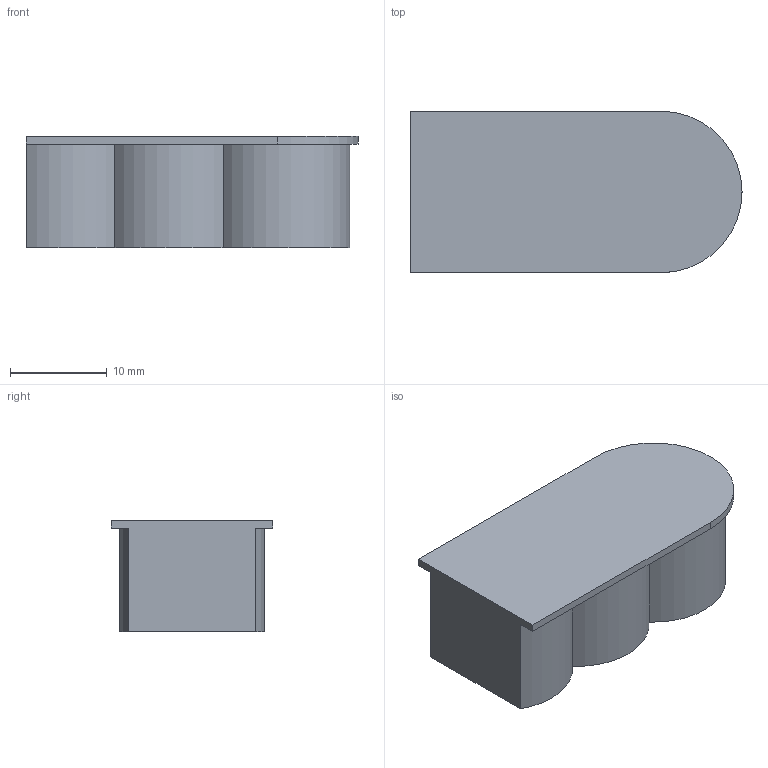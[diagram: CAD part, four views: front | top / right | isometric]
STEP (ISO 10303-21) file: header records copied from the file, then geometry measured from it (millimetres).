
FILE_DESCRIPTION(/* description */ (''),/* implementation_level */ '2;1');
FILE_NAME(/* name */ 'C:\Users\matthiask.LAMELLONET\Desktop\Cabineo_Bund_flaechenbuendig_Variante_1-2.stp',/* time_stamp */ '2021-07-09T11:45:34+02:00',/* author */ ('matthiask'),/* organization */ (''),/* preprocessor_version */ 'ST-DEVELOPER v18',/* originating_system */ 'Autodesk Inventor 2020',/* authorisation */ '');
FILE_SCHEMA (('AUTOMOTIVE_DESIGN { 1 0 10303 214 3 1 1 }'));
Length unit declared in the file: millimetre
Products named in the file (1): Cabineo Bund flächenbündig Variante 1-2
Bounding box: 34.35 x 16.7 x 11.5 mm (x, y, z)
Volume: 5160.5 mm3; surface area: 2177.9 mm2
Topology: 1 solids, 1 shells, 12 faces, 30 edges, 20 vertices
Faces by surface type: plane 6, cylinder 6
Entity records: 416 total; most frequent: DIRECTION 68, CARTESIAN_POINT 63, ORIENTED_EDGE 60, EDGE_CURVE 30, AXIS2_PLACEMENT_3D 25, VERTEX_POINT 20, LINE 18, VECTOR 18
